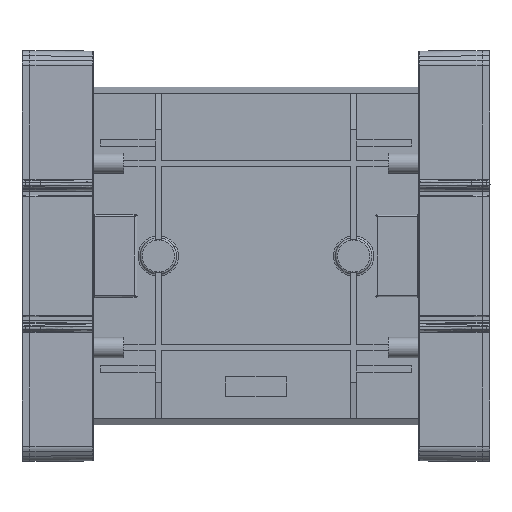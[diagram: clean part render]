
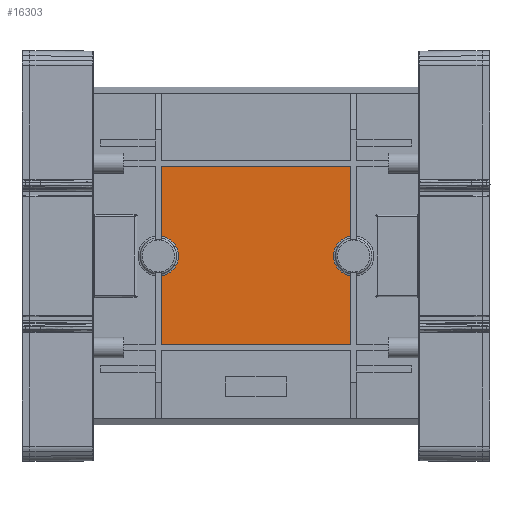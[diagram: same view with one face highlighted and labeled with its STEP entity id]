
A CAD part, front view. The second image highlights one B-rep face of the part: STEP entity #16303.
In plain terms, the highlighted planar face has unit normal (0, -1, 0).
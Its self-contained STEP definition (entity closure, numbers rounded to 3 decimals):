
#12752=DIRECTION('',(1.,0.,0.));
#12753=VECTOR('',#12752,17.107);
#12754=CARTESIAN_POINT('',(-22.,-8.25,-23.25));
#12755=LINE('',#12754,#12753);
#12756=DIRECTION('',(0.,0.,1.));
#12757=VECTOR('',#12756,46.5);
#12758=CARTESIAN_POINT('',(-22.,-8.25,-23.25));
#12759=LINE('',#12758,#12757);
#12760=DIRECTION('',(1.,0.,0.));
#12761=VECTOR('',#12760,17.107);
#12762=CARTESIAN_POINT('',(-22.,-8.25,23.25));
#12763=LINE('',#12762,#12761);
#12764=DIRECTION('',(-1.,0.,0.));
#12765=VECTOR('',#12764,16.857);
#12766=CARTESIAN_POINT('',(21.75,-8.25,23.25));
#12767=LINE('',#12766,#12765);
#12768=DIRECTION('',(0.,0.,1.));
#12769=VECTOR('',#12768,46.5);
#12770=CARTESIAN_POINT('',(21.75,-8.25,-23.25));
#12771=LINE('',#12770,#12769);
#12772=DIRECTION('',(-1.,0.,0.));
#12773=VECTOR('',#12772,16.857);
#12774=CARTESIAN_POINT('',(21.75,-8.25,-23.25));
#12775=LINE('',#12774,#12773);
#13213=CARTESIAN_POINT('',(-4.893,-8.25,-23.25));
#13215=CARTESIAN_POINT('',(0.,-8.25,-24.));
#13216=DIRECTION('',(0.,-1.,0.));
#13217=DIRECTION('',(0.988,0.,0.152));
#13218=AXIS2_PLACEMENT_3D('',#13215,#13216,#13217);
#13220=CARTESIAN_POINT('',(4.893,-8.25,-23.25));
#13466=CARTESIAN_POINT('',(-4.893,-8.25,23.25));
#13516=CARTESIAN_POINT('',(4.893,-8.25,23.25));
#13518=CARTESIAN_POINT('',(0.,-8.25,24.));
#13519=DIRECTION('',(0.,1.,0.));
#13520=DIRECTION('',(0.988,0.,-0.152));
#13521=AXIS2_PLACEMENT_3D('',#13518,#13519,#13520);
#14406=VERTEX_POINT('',#13516);
#14444=VERTEX_POINT('',#13466);
#14481=VERTEX_POINT('',#13220);
#14517=VERTEX_POINT('',#13213);
#14644=CARTESIAN_POINT('',(-22.,-8.25,23.25));
#14645=VERTEX_POINT('',#14644);
#14650=CARTESIAN_POINT('',(-22.,-8.25,-23.25));
#14651=VERTEX_POINT('',#14650);
#14670=CARTESIAN_POINT('',(21.75,-8.25,23.25));
#14671=VERTEX_POINT('',#14670);
#14676=CARTESIAN_POINT('',(21.75,-8.25,-23.25));
#14677=VERTEX_POINT('',#14676);
#16280=CARTESIAN_POINT('',(-41.5,-8.25,-40.));
#16281=DIRECTION('',(0.,-1.,0.));
#16282=DIRECTION('',(1.,0.,0.));
#16283=AXIS2_PLACEMENT_3D('',#16280,#16281,#16282);
#16284=PLANE('',#16283);
#16286=ORIENTED_EDGE('',*,*,#16285,.T.);
#16288=ORIENTED_EDGE('',*,*,#16287,.F.);
#16290=ORIENTED_EDGE('',*,*,#16289,.T.);
#16292=ORIENTED_EDGE('',*,*,#16291,.T.);
#16294=ORIENTED_EDGE('',*,*,#16293,.F.);
#16296=ORIENTED_EDGE('',*,*,#16295,.F.);
#16298=ORIENTED_EDGE('',*,*,#16297,.F.);
#16300=ORIENTED_EDGE('',*,*,#16299,.T.);
#16301=EDGE_LOOP('',(#16286,#16288,#16290,#16292,#16294,#16296,#16298,#16300));
#16302=FACE_OUTER_BOUND('',#16301,.F.);
#16303=ADVANCED_FACE('',(#16302),#16284,.T.);
#13219=CIRCLE('',#13218,4.95);
#13522=CIRCLE('',#13521,4.95);
#16285=EDGE_CURVE('',#14481,#14517,#13219,.T.);
#16287=EDGE_CURVE('',#14651,#14517,#12755,.T.);
#16289=EDGE_CURVE('',#14651,#14645,#12759,.T.);
#16291=EDGE_CURVE('',#14645,#14444,#12763,.T.);
#16293=EDGE_CURVE('',#14406,#14444,#13522,.T.);
#16295=EDGE_CURVE('',#14671,#14406,#12767,.T.);
#16297=EDGE_CURVE('',#14677,#14671,#12771,.T.);
#16299=EDGE_CURVE('',#14677,#14481,#12775,.T.);
